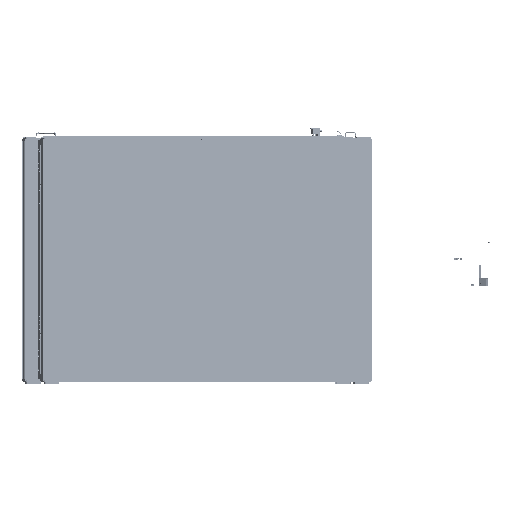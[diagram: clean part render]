
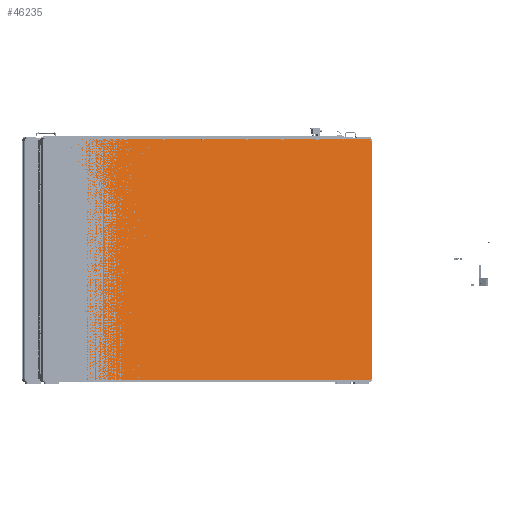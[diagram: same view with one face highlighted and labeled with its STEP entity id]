
A CAD part, left-side view. The second image highlights one B-rep face of the part: STEP entity #46235.
In plain terms, the highlighted planar face has unit normal (-0.866, -0.5, 0) as drawn and (0, 1, 0) by its records, which use the part's own axes.
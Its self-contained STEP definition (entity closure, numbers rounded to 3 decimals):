
#46235=ADVANCED_FACE('P26',(#63010),#57585,.T.);
#57585=PLANE('',#293479);
#63010=FACE_OUTER_BOUND('',#71001,.T.);
#71001=EDGE_LOOP('',(#88227,#88228,#88229,#88230));
#88227=ORIENTED_EDGE('',*,*,#165500,.T.);
#88228=ORIENTED_EDGE('',*,*,#165495,.T.);
#88229=ORIENTED_EDGE('',*,*,#165502,.F.);
#88230=ORIENTED_EDGE('',*,*,#165503,.T.);
#144716=VERTEX_POINT('',#387781);
#144717=VERTEX_POINT('',#387783);
#144720=VERTEX_POINT('',#387793);
#144721=VERTEX_POINT('',#387797);
#165495=EDGE_CURVE('',#144717,#144716,#251410,.T.);
#165500=EDGE_CURVE('',#144720,#144717,#251415,.T.);
#165502=EDGE_CURVE('',#144721,#144716,#251417,.T.);
#165503=EDGE_CURVE('',#144721,#144720,#251418,.T.);
#251410=LINE('',#387782,#274583);
#251415=LINE('',#387792,#274588);
#251417=LINE('',#387796,#274590);
#251418=LINE('',#387798,#274591);
#274583=VECTOR('',#321344,1.);
#274588=VECTOR('',#321353,1.);
#274590=VECTOR('',#321357,1.);
#274591=VECTOR('',#321358,1.);
#293479=AXIS2_PLACEMENT_3D('',#387799,#321359,#321360);
#321344=DIRECTION('',(1.,0.,0.));
#321353=DIRECTION('',(0.,0.,1.));
#321357=DIRECTION('',(0.,0.,1.));
#321358=DIRECTION('',(-1.,0.,0.));
#321359=DIRECTION('',(0.,1.,0.));
#321360=DIRECTION('',(0.,0.,1.));
#387781=CARTESIAN_POINT('',(3906.,1.5,2487.));
#387782=CARTESIAN_POINT('',(1953.,1.5,2487.));
#387783=CARTESIAN_POINT('',(0.,1.5,2487.));
#387792=CARTESIAN_POINT('',(0.,1.5,0.));
#387793=CARTESIAN_POINT('',(0.,1.5,0.));
#387796=CARTESIAN_POINT('',(3906.,1.5,0.));
#387797=CARTESIAN_POINT('',(3906.,1.5,0.));
#387798=CARTESIAN_POINT('',(1953.,1.5,0.));
#387799=CARTESIAN_POINT('',(1953.,1.5,0.));
